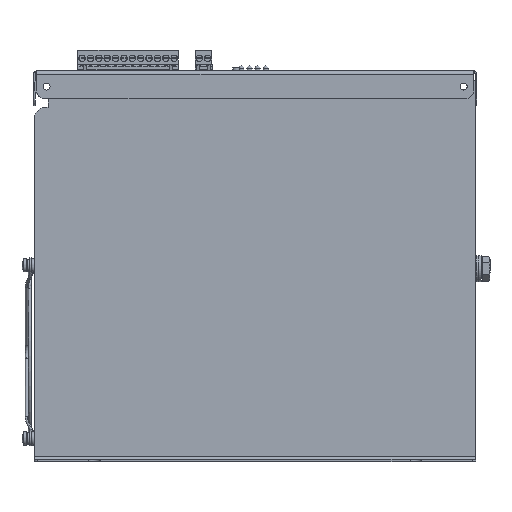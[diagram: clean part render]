
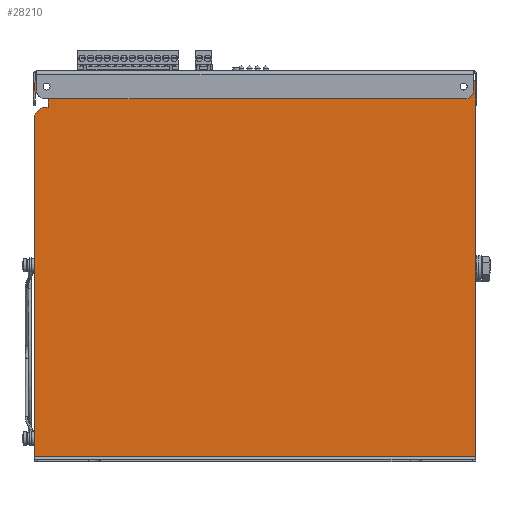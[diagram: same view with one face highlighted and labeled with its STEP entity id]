
A CAD part, left-side view. The second image highlights one B-rep face of the part: STEP entity #28210.
In plain terms, the highlighted planar face has unit normal (-1, 0, 0).
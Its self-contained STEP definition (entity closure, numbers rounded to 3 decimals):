
#28210=ADVANCED_FACE('',(#63038,#63040,#63042),#63044,.F.);
#63038=FACE_BOUND('',#63039,.T.);
#63039=EDGE_LOOP('',(#122790,#122791,#122792,#122793,#122794,#122795,#122796,#122797,
#122798,#122799));
#63040=FACE_BOUND('',#63041,.T.);
#63041=EDGE_LOOP('',(#122800));
#63042=FACE_BOUND('',#63043,.T.);
#63043=EDGE_LOOP('',(#122801));
#63044=PLANE('',#63045);
#63045=AXIS2_PLACEMENT_3D('',#63046,#63047,#63048);
#63046=CARTESIAN_POINT('',(-59.852,12.642,60.711));
#63047=DIRECTION('',(1.,0.,0.));
#63048=DIRECTION('',(0.,1.,0.));
#122790=ORIENTED_EDGE('',*,*,#140262,.T.);
#122791=ORIENTED_EDGE('',*,*,#139532,.F.);
#122792=ORIENTED_EDGE('',*,*,#140261,.F.);
#122793=ORIENTED_EDGE('',*,*,#140263,.F.);
#122794=ORIENTED_EDGE('',*,*,#140264,.F.);
#122795=ORIENTED_EDGE('',*,*,#140265,.T.);
#122796=ORIENTED_EDGE('',*,*,#140266,.T.);
#122797=ORIENTED_EDGE('',*,*,#140267,.T.);
#122798=ORIENTED_EDGE('',*,*,#140268,.F.);
#122799=ORIENTED_EDGE('',*,*,#140269,.F.);
#122800=ORIENTED_EDGE('',*,*,#140270,.T.);
#122801=ORIENTED_EDGE('',*,*,#140271,.T.);
#139532=EDGE_CURVE('',#158458,#158460,#158461,.T.);
#140261=EDGE_CURVE('',#159882,#158458,#159884,.F.);
#140262=EDGE_CURVE('',#159885,#158460,#159886,.T.);
#140263=EDGE_CURVE('',#159887,#159882,#159888,.T.);
#140264=EDGE_CURVE('',#159889,#159887,#159890,.F.);
#140265=EDGE_CURVE('',#159889,#159891,#159892,.T.);
#140266=EDGE_CURVE('',#159891,#159893,#159894,.T.);
#140267=EDGE_CURVE('',#159893,#159895,#159896,.T.);
#140268=EDGE_CURVE('',#159897,#159895,#159898,.F.);
#140269=EDGE_CURVE('',#159885,#159897,#159899,.T.);
#140270=EDGE_CURVE('',#159900,#159900,#159901,.T.);
#140271=EDGE_CURVE('',#159902,#159902,#159903,.T.);
#158458=VERTEX_POINT('',#214991);
#158460=VERTEX_POINT('',#214995);
#158461=LINE('',#214996,#214997);
#159882=VERTEX_POINT('',#218195);
#159884=CIRCLE('',#218199,7.5);
#159885=VERTEX_POINT('',#218203);
#159886=LINE('',#218204,#218205);
#159887=VERTEX_POINT('',#218207);
#159888=LINE('',#218208,#218209);
#159889=VERTEX_POINT('',#218211);
#159890=CIRCLE('',#218212,7.5);
#159891=VERTEX_POINT('',#218216);
#159892=LINE('',#218217,#218218);
#159893=VERTEX_POINT('',#218220);
#159894=LINE('',#218221,#218222);
#159895=VERTEX_POINT('',#218224);
#159896=LINE('',#218225,#218226);
#159897=VERTEX_POINT('',#218228);
#159898=CIRCLE('',#218229,7.5);
#159899=LINE('',#218233,#218234);
#159900=VERTEX_POINT('',#218236);
#159901=CIRCLE('',#218237,3.05);
#159902=VERTEX_POINT('',#218241);
#159903=CIRCLE('',#218242,3.05);
#214991=CARTESIAN_POINT('',(-59.852,-121.358,170.711));
#214995=CARTESIAN_POINT('',(-59.852,-121.358,-53.789));
#214996=CARTESIAN_POINT('',(-59.852,-121.358,170.711));
#214997=VECTOR('',#214998,1.);
#214998=DIRECTION('',(0.,0.,-1.));
#218195=CARTESIAN_POINT('',(-59.852,-113.858,178.211));
#218199=AXIS2_PLACEMENT_3D('',#218200,#218201,#218202);
#218200=CARTESIAN_POINT('',(-59.852,-113.858,170.711));
#218201=DIRECTION('',(-1.,0.,0.));
#218202=DIRECTION('',(0.,-1.,0.));
#218203=CARTESIAN_POINT('',(-59.852,146.642,-53.789));
#218204=CARTESIAN_POINT('',(-59.852,146.642,-53.789));
#218205=VECTOR('',#218206,1.);
#218206=DIRECTION('',(0.,-1.,0.));
#218207=CARTESIAN_POINT('',(-59.852,139.142,178.211));
#218208=CARTESIAN_POINT('',(-59.852,139.142,178.211));
#218209=VECTOR('',#218210,1.);
#218210=DIRECTION('',(0.,-1.,0.));
#218211=CARTESIAN_POINT('',(-59.852,139.142,163.211));
#218212=AXIS2_PLACEMENT_3D('',#218213,#218214,#218215);
#218213=CARTESIAN_POINT('',(-59.852,139.142,170.711));
#218214=DIRECTION('',(-1.,0.,0.));
#218215=DIRECTION('',(0.,0.,1.));
#218216=CARTESIAN_POINT('',(-59.852,138.142,163.211));
#218217=CARTESIAN_POINT('',(-59.852,139.142,163.211));
#218218=VECTOR('',#218219,1.);
#218219=DIRECTION('',(0.,-1.,0.));
#218220=CARTESIAN_POINT('',(-59.852,138.142,158.211));
#218221=CARTESIAN_POINT('',(-59.852,138.142,163.211));
#218222=VECTOR('',#218223,1.);
#218223=DIRECTION('',(0.,0.,-1.));
#218224=CARTESIAN_POINT('',(-59.852,139.142,158.211));
#218225=CARTESIAN_POINT('',(-59.852,138.142,158.211));
#218226=VECTOR('',#218227,1.);
#218227=DIRECTION('',(0.,1.,0.));
#218228=CARTESIAN_POINT('',(-59.852,146.642,150.711));
#218229=AXIS2_PLACEMENT_3D('',#218230,#218231,#218232);
#218230=CARTESIAN_POINT('',(-59.852,139.142,150.711));
#218231=DIRECTION('',(-1.,0.,0.));
#218232=DIRECTION('',(0.,0.,1.));
#218233=CARTESIAN_POINT('',(-59.852,146.642,-53.789));
#218234=VECTOR('',#218235,1.);
#218235=DIRECTION('',(0.,0.,1.));
#218236=CARTESIAN_POINT('',(-59.852,142.192,170.711));
#218237=AXIS2_PLACEMENT_3D('',#218238,#218239,#218240);
#218238=CARTESIAN_POINT('',(-59.852,139.142,170.711));
#218239=DIRECTION('',(1.,0.,0.));
#218240=DIRECTION('',(0.,1.,0.));
#218241=CARTESIAN_POINT('',(-59.852,-110.808,170.711));
#218242=AXIS2_PLACEMENT_3D('',#218243,#218244,#218245);
#218243=CARTESIAN_POINT('',(-59.852,-113.858,170.711));
#218244=DIRECTION('',(1.,0.,0.));
#218245=DIRECTION('',(0.,1.,0.));
